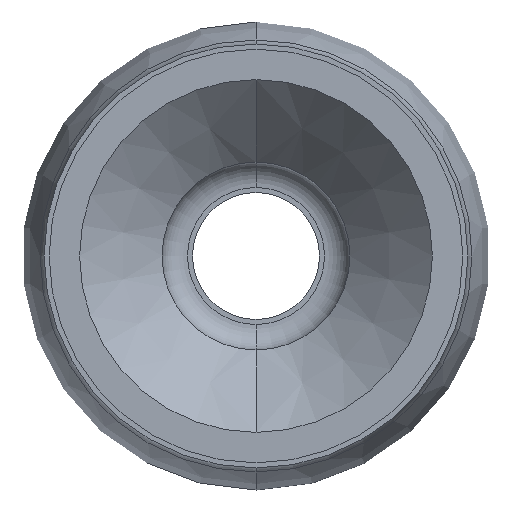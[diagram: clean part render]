
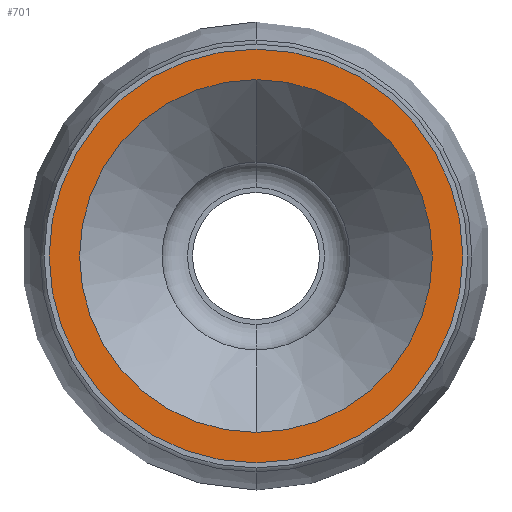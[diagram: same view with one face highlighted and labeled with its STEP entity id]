
A CAD part, left-side view. The second image highlights one B-rep face of the part: STEP entity #701.
In plain terms, the highlighted planar face has unit normal (-1, 0, 0).
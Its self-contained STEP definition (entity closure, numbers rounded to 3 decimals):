
#32 = ORIENTED_EDGE ( 'NONE', *, *, #689, .F. ) ;
#103 = CARTESIAN_POINT ( 'NONE',  ( -0.015, 0., 0. ) ) ;
#143 = CIRCLE ( 'NONE', #303, 0.695 ) ;
#150 = ORIENTED_EDGE ( 'NONE', *, *, #174, .T. ) ;
#159 = CARTESIAN_POINT ( 'NONE',  ( -0.015, 0., 0. ) ) ;
#168 = VERTEX_POINT ( 'NONE', #494 ) ;
#174 = EDGE_CURVE ( 'NONE', #168, #211, #882, .T. ) ;
#188 = DIRECTION ( 'NONE',  ( -1., 0., 0. ) ) ;
#199 = ORIENTED_EDGE ( 'NONE', *, *, #994, .T. ) ;
#202 = AXIS2_PLACEMENT_3D ( 'NONE', #463, #869, #922 ) ;
#211 = VERTEX_POINT ( 'NONE', #511 ) ;
#251 = AXIS2_PLACEMENT_3D ( 'NONE', #159, #928, #940 ) ;
#265 = PLANE ( 'NONE',  #929 ) ;
#284 = CARTESIAN_POINT ( 'NONE',  ( -0.015, 0., -0.695 ) ) ;
#303 = AXIS2_PLACEMENT_3D ( 'NONE', #103, #188, #345 ) ;
#345 = DIRECTION ( 'NONE',  ( 0., 0., 1. ) ) ;
#356 = AXIS2_PLACEMENT_3D ( 'NONE', #567, #957, #744 ) ;
#366 = EDGE_LOOP ( 'NONE', ( #150, #199 ) ) ;
#442 = CIRCLE ( 'NONE', #251, 0.815 ) ;
#463 = CARTESIAN_POINT ( 'NONE',  ( -0.015, 0., 0. ) ) ;
#483 = VERTEX_POINT ( 'NONE', #284 ) ;
#485 = CIRCLE ( 'NONE', #202, 0.695 ) ;
#494 = CARTESIAN_POINT ( 'NONE',  ( -0.015, 0., 0.815 ) ) ;
#511 = CARTESIAN_POINT ( 'NONE',  ( -0.015, 0., -0.815 ) ) ;
#567 = CARTESIAN_POINT ( 'NONE',  ( -0.015, 0., 0. ) ) ;
#587 = DIRECTION ( 'NONE',  ( 0., 0., -1. ) ) ;
#610 = VERTEX_POINT ( 'NONE', #1008 ) ;
#671 = FACE_BOUND ( 'NONE', #690, .T. ) ;
#677 = CARTESIAN_POINT ( 'NONE',  ( -0.015, 0.815, 0. ) ) ;
#689 = EDGE_CURVE ( 'NONE', #610, #483, #143, .T. ) ;
#690 = EDGE_LOOP ( 'NONE', ( #32, #848 ) ) ;
#701 = ADVANCED_FACE ( 'NONE', ( #671, #799 ), #265, .F. ) ;
#744 = DIRECTION ( 'NONE',  ( 0., 0., 1. ) ) ;
#799 = FACE_OUTER_BOUND ( 'NONE', #366, .T. ) ;
#848 = ORIENTED_EDGE ( 'NONE', *, *, #973, .F. ) ;
#869 = DIRECTION ( 'NONE',  ( -1., 0., 0. ) ) ;
#882 = CIRCLE ( 'NONE', #356, 0.815 ) ;
#922 = DIRECTION ( 'NONE',  ( 0., 0., 1. ) ) ;
#928 = DIRECTION ( 'NONE',  ( -1., 0., 0. ) ) ;
#929 = AXIS2_PLACEMENT_3D ( 'NONE', #677, #976, #587 ) ;
#940 = DIRECTION ( 'NONE',  ( 0., 0., 1. ) ) ;
#957 = DIRECTION ( 'NONE',  ( -1., 0., 0. ) ) ;
#973 = EDGE_CURVE ( 'NONE', #483, #610, #485, .T. ) ;
#976 = DIRECTION ( 'NONE',  ( 1., 0., 0. ) ) ;
#994 = EDGE_CURVE ( 'NONE', #211, #168, #442, .T. ) ;
#1008 = CARTESIAN_POINT ( 'NONE',  ( -0.015, 0., 0.695 ) ) ;
